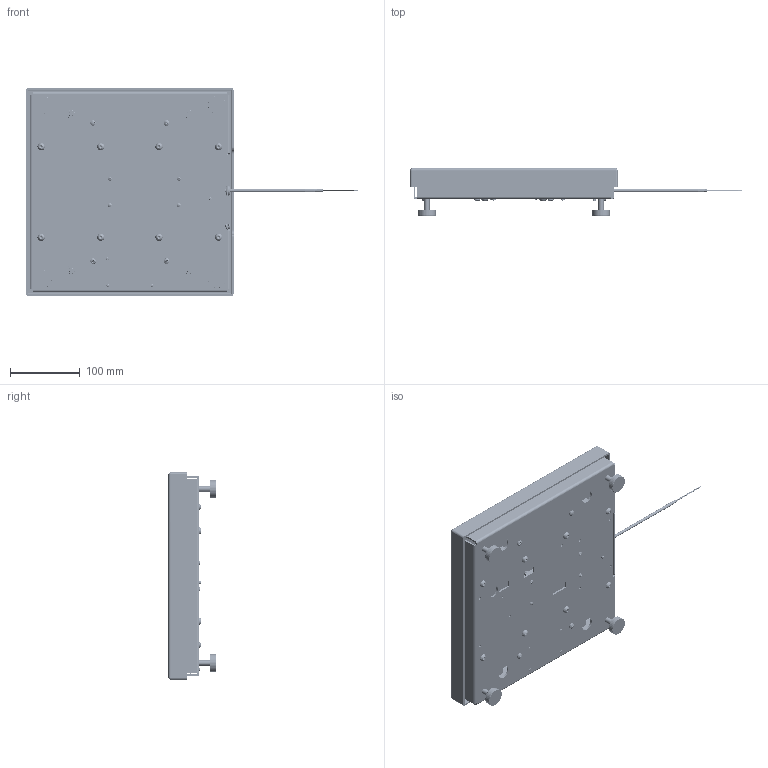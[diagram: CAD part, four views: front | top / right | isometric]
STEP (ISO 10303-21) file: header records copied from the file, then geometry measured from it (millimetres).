
FILE_DESCRIPTION (( 'STEP AP214' ), '1' );
FILE_NAME ('HI1212SBA-130.STEP', '2019-08-22T15:18:13', ( '' ), ( '' ), 'SwSTEP 2.0', 'SolidWorks 2017', '' );
FILE_SCHEMA (( 'AUTOMOTIVE_DESIGN' ));
Length unit declared in the file: inch
Products named in the file (46): 2140-0019-01; 0074756_Modified By Hardy; 0075230_91780A198; 0075174_3 & 4; 0075309; 0530-0629-XX; 0075172_A3, A4 & A5; 0530-0628-01; 0075198; 2814-0098-0_90633A007; 0066958; 0530-0654-01; 0074871; 2817-0272-0_90402A146; 0075233; 0044535; 0514-0239-01-0; 6005-T009; 0075293; socket button head cap screw_am_B18.3.4M - 6 x 1.0 x 20 SBHCS --N-A2.70; Bourns_3299W; hex jam nut_ai_HJNUT 0.2500-20-D-N; 0075231_PBSH-60kg 300 X 300; 0075305_42-000848; 0075287_C2 CHIP; 0535-0420-02; 0075290; 2140-0019-02; pan cross head_ai_CR-PHMS 0.164-32x0.3125x0.3125-N-A2.70; 0075200_93505A451; 2808-0013-0; 0075295; flat head screw_ai_CR-FHMS 0.164-32x0.875x0.875-N-A2.70; 0075294; 0075173_B3; 0075232_80-001903; HI1212SBA-130; 2815-0157_91780A167; 0074883_91290A248; socket head cap screw_am_B18.3.1M - 4 x 0.7 x 8 Hex SHCS -- 8NHX-A2.70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
Assembly tree (96 placements, depth 4):
  HI1212SBA-130
    0074914_Modified By Hardy
    0075309
    0075175_84-227973  x4
      0075172_A3, A4 & A5
      0075174_3 & 4
      0075173_B3
    hex jam nut_ai_HJNUT 0.2500-20-D-N  x4
    0074756_Modified By Hardy
    0075198  x4
    0075200_93505A451  x4
    0075290
      0075233
      0018546  x4
      0075287_C2 CHIP
      0075295  x4
        0075294
        0075293
    pan cross head_ai_CR-PHMS 0.164-32x0.3125x0.3125-N-A2.70  x4
    0074881_PBSH-15kg SUB-ASSEMBLY  x4
      0074871
      0044535
      0066958
      0074883_91290A248
    0075231_PBSH-60kg 300 X 300  x4
      0075230_91780A198
      0075232_80-001903
      flat head screw_ai_CR-FHMS 0.164-32x0.875x0.875-N-A2.70
      pan cross head_ai_CR-PHMS 0.164-32x0.3125x0.3125-N-A2.70
    socket button head cap screw_am_B18.3.4M - 6 x 1.0 x 20 SBHCS --N-A2.70  x8
    2814-0098-0_90633A007  x2
    0514-0239-01-0
    2817-0272-0_90402A146
    2808-0013-0
    socket head cap screw_am_B18.3.1M - 4 x 0.7 x 8 Hex SHCS -- 8NHX-A2.70
    0075305_42-000848
    0535-0420-02
      0534-0393
      Bourns_3299W  x3
      2140-0019-01
      2140-0019-02
    2815-0157_91780A167  x4
    pan cross head_ai_CR-PHMS 0.112-40x0.3125x0.3125-N  x8
    6005-T009
    0530-0654-01
    0530-0628-01
    0530-0629-XX
Bounding box: 477 x 68.17 x 298.19 mm (x, y, z)
Volume: 852527.6 mm3; surface area: 642959.6 mm2
Topology: 226 solids, 226 shells, 11747 faces, 30584 edges, 19767 vertices
Faces by surface type: plane 7937, cylinder 2038, cone 900, bspline 654, torus 136, sphere 82
Entity records: 361820 total; most frequent: CARTESIAN_POINT 75556, ORIENTED_EDGE 43882, DIRECTION 37567, EDGE_CURVE 21941, LINE 18029, VECTOR 18029, VERTEX_POINT 14418, AXIS2_PLACEMENT_3D 9769
